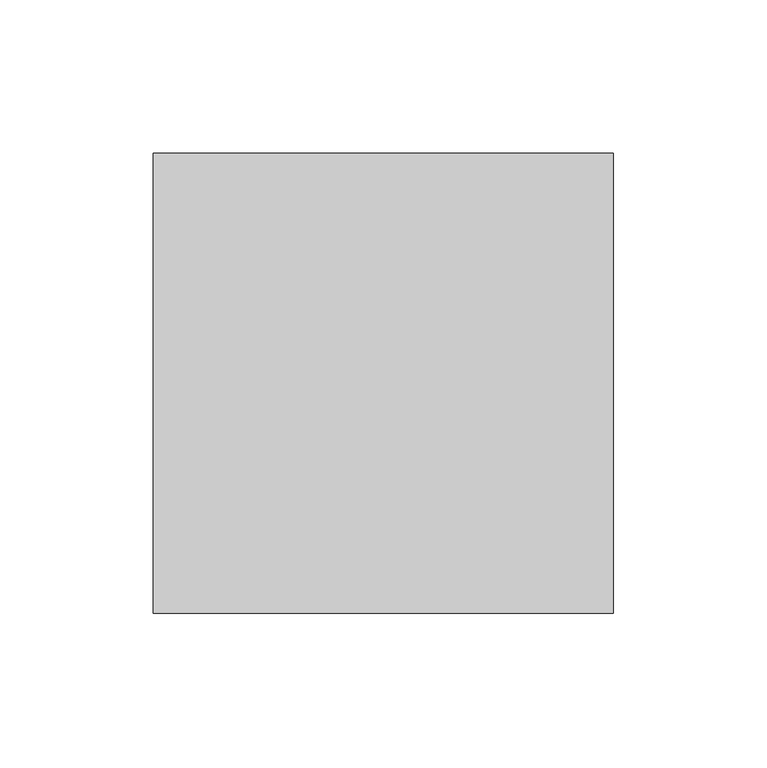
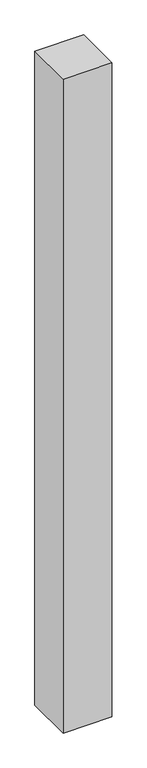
"""IFC4 building model written with IfcOpenShell, lengths in millimetres: member geometry, Угловой L-импост : Угловой L-импост."""

from ifc_helpers import new_model, si_unit, frame, origin, place, context, project, spatial, polyline, outline, extrude, source, transform, mapped, element, save


def member_94449266(model_context):
    return source(origin(), model_context, "Body", "SweptSolid", [
        extrude(outline(polyline([(-75.0, -75.0), (-75.0, 75.0), (75.0, 75.0), (75.0, -75.0), (-75.0, -75.0)])), frame((0.0, 0.0, -2125.0), z_axis=(0.0, 0.0, 1.0), x_axis=(1.0, 0.0, 0.0)), (0.0, 0.0, 1.0), 2125.0),
    ])


if __name__ == "__main__":
    model = new_model("IFC4")
    model_context = context("Model", 3, world=origin())
    ifc_project = project(units=[si_unit("LENGTHUNIT", "METRE", prefix="MILLI")], contexts=[model_context])
    site = spatial("IfcSite", under=ifc_project)
    building = spatial("IfcBuilding", under=site)
    placement = place(None, origin())
    member_shape = member_94449266(model_context)
    element("IfcMember", 1, ObjectType="Угловой L-импост : Угловой L-импост", at=placement, inside=building, context=model_context, shape_type="MappedRepresentation", body=[
        mapped(member_shape, transform((0.0, 0.0, 0.0), x_axis=(1.0, 0.0, 0.0), y_axis=(0.0, 1.0, 0.0), z_axis=(0.0, 0.0, 1.0))),
    ])
    save(model, "model.ifc")
